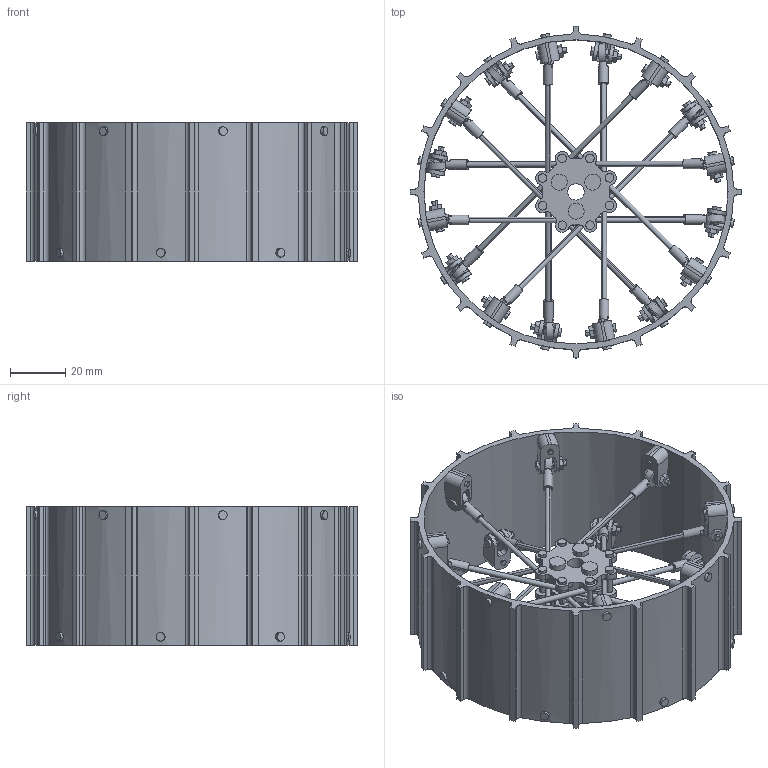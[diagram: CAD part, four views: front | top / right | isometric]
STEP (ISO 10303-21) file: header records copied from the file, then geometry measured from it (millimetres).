
FILE_DESCRIPTION (( 'STEP AP214' ), '1' );
FILE_NAME ('Teine_kodaratega.STEP', '2025-05-19T12:22:03', ( '' ), ( '' ), 'SwSTEP 2.0', 'SolidWorks 2024', '' );
FILE_SCHEMA (( 'AUTOMOTIVE_DESIGN' ));
Length unit declared in the file: millimetre
Products named in the file (13): Joint; Spoke; M3_12mm; Bolt_15mm; Hub_top; Hub_bottom; Spoke_connector; Teine_kodaratega; Bolt_10mm; KK.009.007.Wheel_adapter_hexagon; NutM2; Wheel; Ball
Assembly tree (127 placements, depth 2):
  Teine_kodaratega
    Wheel
    Spoke_connector  x16
    Ball  x16
    Joint  x16
    Spoke  x8
    Hub_top
    Hub_bottom
    KK.009.007.Wheel_adapter_hexagon
    Bolt_10mm  x32
    Bolt_15mm  x8
    NutM2  x24
    M3_12mm  x3
Bounding box: 120 x 120 x 50 mm (x, y, z)
Volume: 60597.2 mm3; surface area: 70890.9 mm2
Topology: 167 solids, 167 shells, 1710 faces, 4237 edges, 2798 vertices
Faces by surface type: cylinder 802, plane 770, sphere 64, torus 32, bspline 32, cone 10
Entity records: 18842 total; most frequent: CARTESIAN_POINT 4704, DIRECTION 2954, ORIENTED_EDGE 2736, EDGE_CURVE 1368, AXIS2_PLACEMENT_3D 1094, VERTEX_POINT 906, VECTOR 766, LINE 766
